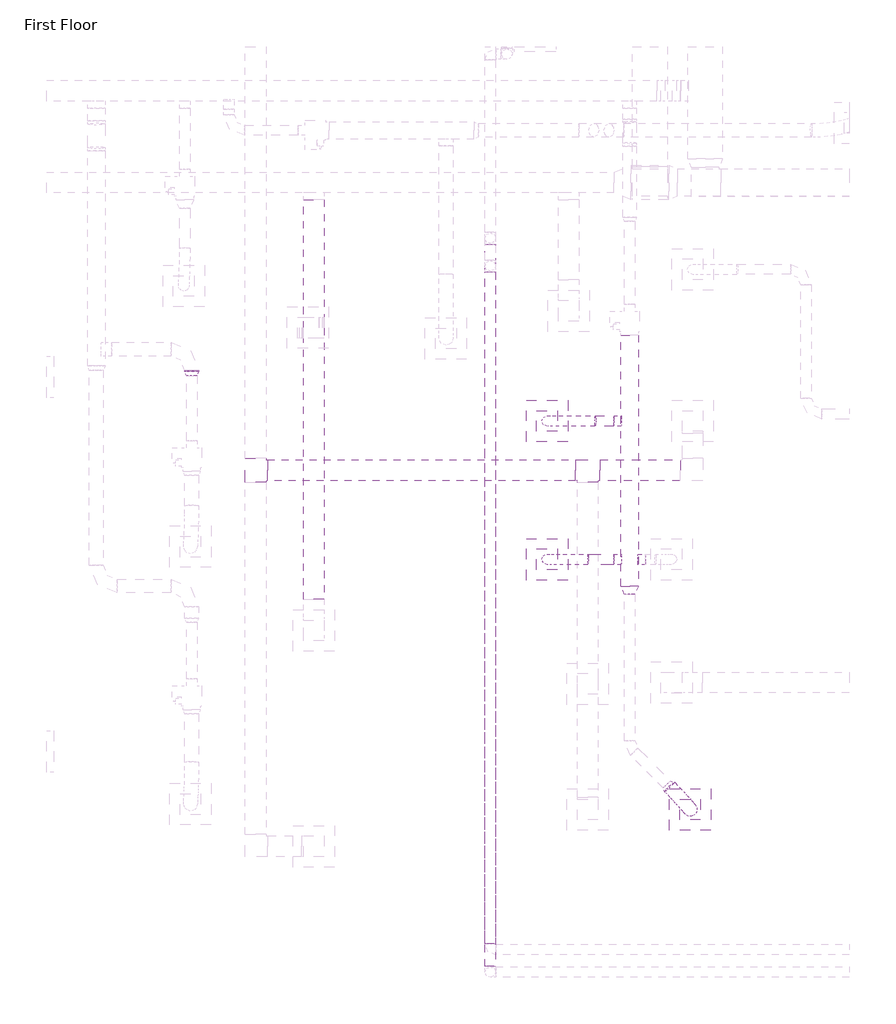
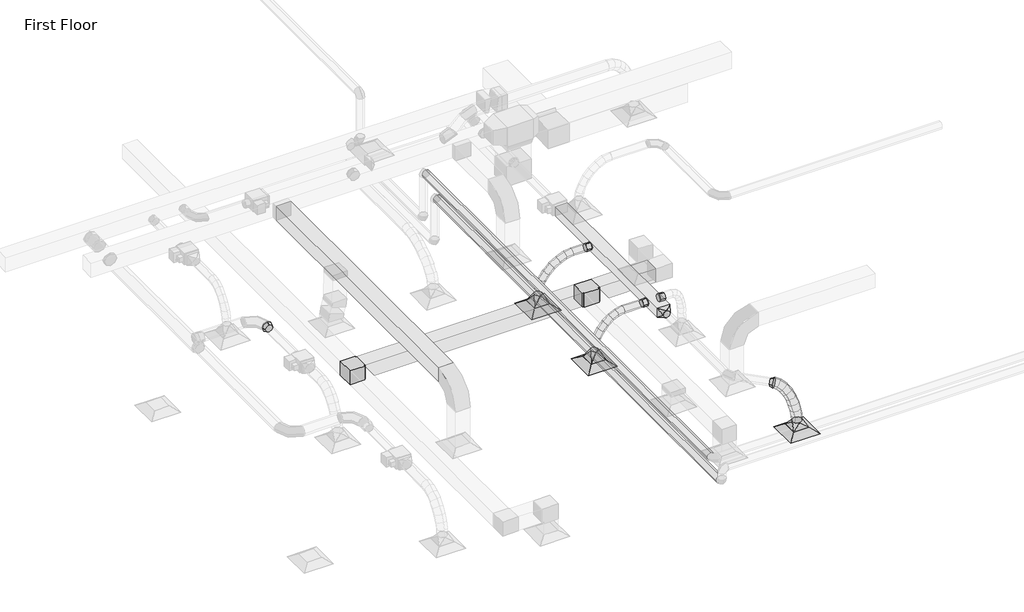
# One storey, part 3 of 61: 11 duct fittings, 10 duct segments, 3 air terminals, 2 pipe segments.
"""IFC4 building model written with IfcOpenShell, lengths in millimetres."""

from ifc_helpers import new_model, si_unit, point, frame, frame_2d, origin, place, context, project, spatial, polyline, circle_curve, ellipse_curve, trimmed, segment, composite_curve, outline, extrude, transform, mapped, element, save
from ifc_brep_helpers import plane_surface, cylinder_surface, advanced_brep
from components import m_exhaust_grill_er_600_x_600_face_300_x_300_connection_ff221211, m_rectangular_tee_standard_bf2a2b7f, m_rectangular_to_round_transition_angle_45_degree_8f201c83, m_rectangular_to_round_transition_angle_45_degree_c3b12eae, m_rectangular_to_round_transition_angle_45_degree_60daae35, m_round_takeoff_standard_d02f3bf7, m_round_takeoff_standard_2721f8a4, m_round_transition_angle_45_degree_3fc7b733

model = new_model("IFC4")

# Units and contexts
model_context = context("Model", 3, world=origin())
ifc_project = project(units=[si_unit("LENGTHUNIT", "METRE", prefix="MILLI")], contexts=[model_context])

# Site, building, storey
site = spatial("IfcSite", under=ifc_project)
building = spatial("IfcBuilding", under=site)
storey = spatial("IfcBuildingStorey", under=building, Name="First Floor", Elevation=0.0)

# Air terminals
placement = place(None, origin())
m_exhaust_grill_er_600_x_600_face_300_x_300_connection_shape = m_exhaust_grill_er_600_x_600_face_300_x_300_connection_ff221211(model_context)
element("IfcAirTerminal", 1, ObjectType="M_Supply Diffuser : SD-600 x 600 Face 300 x 300 Connection", at=placement, inside=storey, context=model_context, shape_type="MappedRepresentation", body=[
    mapped(m_exhaust_grill_er_600_x_600_face_300_x_300_connection_shape, transform((-41354.1385179, 7090.0613083, 2680.0), x_axis=(1.0, 0.0, 0.0), y_axis=(0.0, 1.0, 0.0), z_axis=(0.0, 0.0, 1.0))),
])
element("IfcAirTerminal", 2, ObjectType="M_Supply Diffuser : SD-600 x 600 Face 300 x 300 Connection", at=placement, inside=storey, context=model_context, shape_type="MappedRepresentation", body=[
    mapped(m_exhaust_grill_er_600_x_600_face_300_x_300_connection_shape, transform((-41354.1385179, 5090.8486203, 2680.0), x_axis=(1.0, 0.0, 0.0), y_axis=(0.0, 1.0, 0.0), z_axis=(0.0, 0.0, 1.0))),
])
element("IfcAirTerminal", 3, ObjectType="M_Supply Diffuser : SD-600 x 600 Face 300 x 300 Connection", at=placement, inside=storey, context=model_context, shape_type="MappedRepresentation", body=[
    mapped(m_exhaust_grill_er_600_x_600_face_300_x_300_connection_shape, transform((-39284.1874004, 1476.0224534, 2680.0), x_axis=(1.0, 0.0, 0.0), y_axis=(0.0, 1.0, 0.0), z_axis=(0.0, 0.0, 1.0))),
])

# Duct fittings
m_rectangular_tee_standard_shape = m_rectangular_tee_standard_bf2a2b7f(model_context)
element("IfcDuctFitting", 4, ObjectType="M_Rectangular Tee : Standard", at=placement, inside=storey, context=model_context, shape_type="MappedRepresentation", body=[
    mapped(m_rectangular_tee_standard_shape, transform((-40765.5775939, 6376.0224534, 3200.0), x_axis=(1.0, 0.0, 0.0), y_axis=(0.0, 1.0, 0.0), z_axis=(0.0, 0.0, 1.0))),
])
element("IfcDuctFitting", 5, ObjectType="M_Rectangular Tee : Standard", at=placement, inside=storey, context=model_context, shape_type="MappedRepresentation", body=[
    mapped(m_rectangular_tee_standard_shape, transform((-45565.5775939, 6376.0224534, 3200.0), x_axis=(0.0, 1.0, 0.0), y_axis=(-1.0, 0.0, 0.0), z_axis=(0.0, 0.0, 1.0))),
])
m_rectangular_to_round_transition_angle_45_degree_shape = m_rectangular_to_round_transition_angle_45_degree_8f201c83(model_context)
element("IfcDuctFitting", 6, ObjectType="M_Rectangular to Round Transition - Angle : 45 Degree", at=placement, inside=storey, context=model_context, shape_type="MappedRepresentation", body=[
    mapped(m_rectangular_to_round_transition_angle_45_degree_shape, transform((-41354.1385179, 7090.0613083, 2781.6), x_axis=(0.0, 0.0, 1.0), y_axis=(1.0, 0.0, 0.0), z_axis=(0.0, 1.0, 0.0))),
])
element("IfcDuctFitting", 7, ObjectType="M_Rectangular to Round Transition - Angle : 45 Degree", at=placement, inside=storey, context=model_context, shape_type="MappedRepresentation", body=[
    mapped(m_rectangular_to_round_transition_angle_45_degree_shape, transform((-41354.1385179, 5090.8486203, 2781.6), x_axis=(0.0, 0.0, 1.0), y_axis=(1.0, 0.0, 0.0), z_axis=(0.0, 1.0, 0.0))),
])
m_rectangular_to_round_transition_angle_45_degree_2_shape = m_rectangular_to_round_transition_angle_45_degree_c3b12eae(model_context)
element("IfcDuctFitting", 8, ObjectType="M_Rectangular to Round Transition - Angle : 45 Degree", at=placement, inside=storey, context=model_context, shape_type="MappedRepresentation", body=[
    mapped(m_rectangular_to_round_transition_angle_45_degree_2_shape, transform((-40159.2211613, 4704.8087341, 3619.0228744), x_axis=(0.0, -1.0, 0.0), y_axis=(1.0, 0.0, 0.0), z_axis=(0.0, 0.0, 1.0))),
])
m_rectangular_to_round_transition_angle_45_degree_3_shape = m_rectangular_to_round_transition_angle_45_degree_60daae35(model_context)
element("IfcDuctFitting", 9, ObjectType="M_Rectangular to Round Transition - Angle : 45 Degree", at=placement, inside=storey, context=model_context, shape_type="MappedRepresentation", body=[
    mapped(m_rectangular_to_round_transition_angle_45_degree_3_shape, transform((-39284.1874004, 1476.0224534, 2781.6), x_axis=(0.0, 0.0, 1.0), y_axis=(1.0, 0.0, 0.0), z_axis=(0.0, 1.0, 0.0))),
])
m_round_takeoff_standard_shape = m_round_takeoff_standard_d02f3bf7(model_context)
element("IfcDuctFitting", 10, ObjectType="M_Round Takeoff : Standard", at=placement, inside=storey, context=model_context, shape_type="MappedRepresentation", body=[
    mapped(m_round_takeoff_standard_shape, transform((-40284.2211613, 5090.8486203, 3619.1), x_axis=(-1.0, 0.0, 0.0), y_axis=(0.0, 1.0, 0.0), z_axis=(0.0, 0.0, -1.0))),
])
element("IfcDuctFitting", 11, ObjectType="M_Round Takeoff : Standard", at=placement, inside=storey, context=model_context, shape_type="MappedRepresentation", body=[
    mapped(m_round_takeoff_standard_shape, transform((-40284.2211613, 7090.0613083, 3619.1), x_axis=(-1.0, 0.0, 0.0), y_axis=(0.0, 1.0, 0.0), z_axis=(0.0, 0.0, -1.0))),
])
m_round_takeoff_standard_2_shape = m_round_takeoff_standard_2721f8a4(model_context)
element("IfcDuctFitting", 12, ObjectType="M_Round Takeoff : Standard", at=placement, inside=storey, context=model_context, shape_type="MappedRepresentation", body=[
    mapped(m_round_takeoff_standard_2_shape, transform((-40034.2211613, 5090.8486203, 3619.1), x_axis=(1.0, 0.0, 0.0), y_axis=(0.0, -1.0, 0.0), z_axis=(0.0, 0.0, -1.0))),
])
m_round_transition_angle_45_degree_shape = m_round_transition_angle_45_degree_3fc7b733(model_context)
element("IfcDuctFitting", 13, ObjectType="M_Round Transition - Angle : 45 Degree", at=placement, inside=storey, context=model_context, shape_type="MappedRepresentation", body=[
    mapped(m_round_transition_angle_45_degree_shape, transform((-46488.9134544, 7744.2820296, 3609.5), x_axis=(0.0, 0.9999999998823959, -1.533650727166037e-05), y_axis=(-1.0000000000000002, 0.0, 0.0), z_axis=(0.0, 1.533650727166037e-05, 0.9999999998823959))),
])
element("IfcDuctFitting", 14, ObjectType="M_Round Transition - Angle : 45 Degree", at=placement, inside=storey, context=model_context, shape_type="MappedRepresentation", body=[
    mapped(m_round_transition_angle_45_degree_shape, transform((-39621.8200076, 1839.8949538, 3619.1), x_axis=(0.7071067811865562, -0.7071067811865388, 0.0), y_axis=(0.7071067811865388, 0.7071067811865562, 0.0), z_axis=(0.0, 0.0, 1.0))),
])

# Duct segments
element("IfcDuctSegment", 15, ObjectType="Flex - Round", at=placement, inside=storey, context=model_context, shape_type="AdvancedBrep", body=[
    advanced_brep(
    [(-40659.2211613, 7015.0613083, 3619.1), (-40648.7151784, 7090.0613083, 3544.8394834), (-40659.2211613, 7165.0613083, 3619.1), (-40669.7271441, 7090.0613083, 3693.3605166), (-40798.0467145, 7015.0613083, 3599.4596992), (-40778.7190351, 7090.0613083, 3526.4472293), (-40798.0467145, 7165.0613083, 3599.4596992), (-40817.3743939, 7090.0613083, 3672.4721691), (-41354.1385179, 7015.0613083, 2962.6660172), (-41428.2049135, 7090.0613083, 2974.4630098), (-41354.1385179, 7165.0613083, 2962.6660172), (-41280.0721222, 7090.0613083, 2950.8690245), (-40936.3384627, 7015.0613083, 3544.701256), (-40901.9394345, 7090.0613083, 3477.6564857), (-40936.3384627, 7165.0613083, 3544.701256), (-40970.7374909, 7090.0613083, 3611.7460264), (-41066.5063599, 7015.0613083, 3461.0683595), (-41020.359549, 7090.0613083, 3401.5715415), (-41066.5063599, 7165.0613083, 3461.0683595), (-41112.6531708, 7090.0613083, 3520.5651774), (-41180.96036, 7015.0613083, 3354.8046984), (-41124.876813, 7090.0613083, 3304.5335428), (-41180.96036, 7165.0613083, 3354.8046984), (-41237.043907, 7090.0613083, 3405.075854), (-41272.110417, 7015.0613083, 3232.1539617), (-41207.1278619, 7090.0613083, 3193.8572352), (-41272.110417, 7165.0613083, 3232.1539617), (-41337.0929722, 7090.0613083, 3270.4506882), (-41332.366485, 7015.0613083, 3099.3598383), (-41259.8905574, 7090.0613083, 3077.5772302), (-41332.366485, 7165.0613083, 3099.3598383), (-41404.8424126, 7090.0613083, 3121.1424465)],
    [
        (0, 1, circle_curve(frame((-40659.2211613, 7090.0613083, 3619.1), z_axis=(0.9901402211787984, 0.0, 0.14007977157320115), x_axis=(0.0, -1.0, 0.0)), 75.0)),
        (1, 2, circle_curve(frame((-40659.2211613, 7090.0613083, 3619.1), z_axis=(0.9901402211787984, 0.0, 0.14007977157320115), x_axis=(0.0, -1.0, 0.0)), 75.0)),
        (2, 3, circle_curve(frame((-40659.2211613, 7090.0613083, 3619.1), z_axis=(0.9901402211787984, 0.0, 0.14007977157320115), x_axis=(0.0, -1.0, 0.0)), 75.0)),
        (3, 0, circle_curve(frame((-40659.2211613, 7090.0613083, 3619.1), z_axis=(0.9901402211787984, 0.0, 0.14007977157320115), x_axis=(0.0, -1.0, 0.0)), 75.0)),
        (0, 4),
        (4, 5, ellipse_curve(frame((-40798.0467145, 7090.0613083, 3599.4596992), z_axis=(0.9667024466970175, 0.0, 0.2559030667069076), x_axis=(0.2559030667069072, 0.0, -0.9667024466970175)), 75.5273457, 75.0)),
        (5, 1),
        (5, 6, ellipse_curve(frame((-40798.0467145, 7090.0613083, 3599.4596992), z_axis=(0.9667024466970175, 0.0, 0.2559030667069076), x_axis=(0.2559030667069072, 0.0, -0.9667024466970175)), 75.5273457, 75.0)),
        (6, 2),
        (6, 7, ellipse_curve(frame((-40798.0467145, 7090.0613083, 3599.4596992), z_axis=(0.9667024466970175, 0.0, 0.2559030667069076), x_axis=(0.2559030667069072, 0.0, -0.9667024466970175)), 75.5273457, 75.0)),
        (7, 3),
        (7, 4, ellipse_curve(frame((-40798.0467145, 7090.0613083, 3599.4596992), z_axis=(0.9667024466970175, 0.0, 0.2559030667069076), x_axis=(0.2559030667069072, 0.0, -0.9667024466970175)), 75.5273457, 75.0)),
        (8, 9, circle_curve(frame((-41354.1385179, 7090.0613083, 2962.6660172), z_axis=(-0.15729323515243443, 0.0, -0.987551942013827), x_axis=(0.0, -1.0, 0.0)), 75.0)),
        (9, 10, circle_curve(frame((-41354.1385179, 7090.0613083, 2962.6660172), z_axis=(-0.15729323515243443, 0.0, -0.987551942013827), x_axis=(0.0, -1.0, 0.0)), 75.0)),
        (10, 11, circle_curve(frame((-41354.1385179, 7090.0613083, 2962.6660172), z_axis=(-0.15729323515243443, 0.0, -0.987551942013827), x_axis=(0.0, -1.0, 0.0)), 75.0)),
        (11, 8, circle_curve(frame((-41354.1385179, 7090.0613083, 2962.6660172), z_axis=(-0.15729323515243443, 0.0, -0.987551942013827), x_axis=(0.0, -1.0, 0.0)), 75.0)),
        (4, 12),
        (12, 13, ellipse_curve(frame((-40936.3384627, 7090.0613083, 3544.701256), z_axis=(0.8897253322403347, 0.0, 0.4564962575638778), x_axis=(0.45649625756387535, 0.0, -0.8897253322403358)), 75.3544582, 75.0)),
        (13, 5),
        (13, 14, ellipse_curve(frame((-40936.3384627, 7090.0613083, 3544.701256), z_axis=(0.8897253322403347, 0.0, 0.4564962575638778), x_axis=(0.45649625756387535, 0.0, -0.8897253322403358)), 75.3544582, 75.0)),
        (14, 6),
        (14, 15, ellipse_curve(frame((-40936.3384627, 7090.0613083, 3544.701256), z_axis=(0.8897253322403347, 0.0, 0.4564962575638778), x_axis=(0.45649625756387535, 0.0, -0.8897253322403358)), 75.3544582, 75.0)),
        (15, 7),
        (15, 12, ellipse_curve(frame((-40936.3384627, 7090.0613083, 3544.701256), z_axis=(0.8897253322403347, 0.0, 0.4564962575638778), x_axis=(0.45649625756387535, 0.0, -0.8897253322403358)), 75.3544582, 75.0)),
        (12, 16),
        (16, 17, ellipse_curve(frame((-41066.5063599, 7090.0613083, 3461.0683595), z_axis=(0.7901784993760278, 0.0, 0.6128767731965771), x_axis=(0.6128767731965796, 0.0, -0.790178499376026)), 75.2954149, 75.0)),
        (17, 13),
        (17, 18, ellipse_curve(frame((-41066.5063599, 7090.0613083, 3461.0683595), z_axis=(0.7901784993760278, 0.0, 0.6128767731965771), x_axis=(0.6128767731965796, 0.0, -0.790178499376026)), 75.2954149, 75.0)),
        (18, 14),
        (18, 19, ellipse_curve(frame((-41066.5063599, 7090.0613083, 3461.0683595), z_axis=(0.7901784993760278, 0.0, 0.6128767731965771), x_axis=(0.6128767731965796, 0.0, -0.790178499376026)), 75.2954149, 75.0)),
        (19, 15),
        (19, 16, ellipse_curve(frame((-41066.5063599, 7090.0613083, 3461.0683595), z_axis=(0.7901784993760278, 0.0, 0.6128767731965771), x_axis=(0.6128767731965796, 0.0, -0.790178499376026)), 75.2954149, 75.0)),
        (16, 20),
        (20, 21, ellipse_curve(frame((-41180.96036, 7090.0613083, 3354.8046984), z_axis=(0.6674666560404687, 0.0, 0.7446396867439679), x_axis=(0.7446396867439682, 0.0, -0.6674666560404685)), 75.316355, 75.0)),
        (21, 17),
        (21, 22, ellipse_curve(frame((-41180.96036, 7090.0613083, 3354.8046984), z_axis=(0.6674666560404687, 0.0, 0.7446396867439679), x_axis=(0.7446396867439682, 0.0, -0.6674666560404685)), 75.316355, 75.0)),
        (22, 18),
        (22, 23, ellipse_curve(frame((-41180.96036, 7090.0613083, 3354.8046984), z_axis=(0.6674666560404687, 0.0, 0.7446396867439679), x_axis=(0.7446396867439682, 0.0, -0.6674666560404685)), 75.316355, 75.0)),
        (23, 19),
        (23, 20, ellipse_curve(frame((-41180.96036, 7090.0613083, 3354.8046984), z_axis=(0.6674666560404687, 0.0, 0.7446396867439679), x_axis=(0.7446396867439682, 0.0, -0.6674666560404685)), 75.316355, 75.0)),
        (20, 24),
        (24, 25, ellipse_curve(frame((-41272.110417, 7090.0613083, 3232.1539617), z_axis=(0.507726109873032, 0.0, 0.86151854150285), x_axis=(0.8615185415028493, 0.0, -0.5077261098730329)), 75.4279241, 75.0)),
        (25, 21),
        (25, 26, ellipse_curve(frame((-41272.110417, 7090.0613083, 3232.1539617), z_axis=(0.507726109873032, 0.0, 0.86151854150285), x_axis=(0.8615185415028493, 0.0, -0.5077261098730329)), 75.4279241, 75.0)),
        (26, 22),
        (26, 27, ellipse_curve(frame((-41272.110417, 7090.0613083, 3232.1539617), z_axis=(0.507726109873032, 0.0, 0.86151854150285), x_axis=(0.8615185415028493, 0.0, -0.5077261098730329)), 75.4279241, 75.0)),
        (27, 23),
        (27, 24, ellipse_curve(frame((-41272.110417, 7090.0613083, 3232.1539617), z_axis=(0.507726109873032, 0.0, 0.86151854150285), x_axis=(0.8615185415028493, 0.0, -0.5077261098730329)), 75.4279241, 75.0)),
        (24, 28),
        (28, 29, ellipse_curve(frame((-41332.366485, 7090.0613083, 3099.3598383), z_axis=(0.28783069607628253, 0.0, 0.9576813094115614), x_axis=(0.957681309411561, 0.0, -0.2878306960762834)), 75.6785446, 75.0)),
        (29, 25),
        (29, 30, ellipse_curve(frame((-41332.366485, 7090.0613083, 3099.3598383), z_axis=(0.28783069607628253, 0.0, 0.9576813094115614), x_axis=(0.957681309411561, 0.0, -0.2878306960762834)), 75.6785446, 75.0)),
        (30, 26),
        (30, 31, ellipse_curve(frame((-41332.366485, 7090.0613083, 3099.3598383), z_axis=(0.28783069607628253, 0.0, 0.9576813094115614), x_axis=(0.957681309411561, 0.0, -0.2878306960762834)), 75.6785446, 75.0)),
        (31, 27),
        (31, 28, ellipse_curve(frame((-41332.366485, 7090.0613083, 3099.3598383), z_axis=(0.28783069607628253, 0.0, 0.9576813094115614), x_axis=(0.957681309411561, 0.0, -0.2878306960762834)), 75.6785446, 75.0)),
        (28, 8),
        (11, 29),
        (10, 30),
        (9, 31),
    ],
    [
        plane_surface(frame((-40659.2211613, 7165.0613083, 3619.1), z_axis=(0.9901402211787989, 0.0, 0.14007977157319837), x_axis=(0.14007977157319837, 0.0, -0.9901402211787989))),
        cylinder_surface(frame((-40659.2211613, 7090.0613083, 3619.1), z_axis=(0.9901402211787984, 0.0, 0.14007977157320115), x_axis=(0.0, -1.0, 0.0)), 75.0),
        plane_surface(frame((-41354.1385179, 7165.0613083, 2962.6660172), z_axis=(-0.15729323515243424, 0.0, -0.987551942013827), x_axis=(0.987551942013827, 0.0, -0.15729323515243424))),
        cylinder_surface(frame((-40798.0467145, 7090.0613083, 3599.4596992), z_axis=(0.9297652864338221, 0.0, 0.36815283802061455), x_axis=(0.0, -1.0, 0.0)), 75.0),
        cylinder_surface(frame((-40936.3384627, 7090.0613083, 3544.701256), z_axis=(0.8413150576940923, 0.0, 0.5405450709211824), x_axis=(0.0, -1.0, 0.0)), 75.0),
        cylinder_surface(frame((-41066.5063599, 7090.0613083, 3461.0683595), z_axis=(0.732841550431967, 0.0, 0.6803993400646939), x_axis=(0.0, -1.0, 0.0)), 75.0),
        cylinder_surface(frame((-41180.96036, 7090.0613083, 3354.8046984), z_axis=(0.5964845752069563, 0.0, 0.8026245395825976), x_axis=(0.0, -1.0, 0.0)), 75.0),
        cylinder_surface(frame((-41272.110417, 7090.0613083, 3232.1539617), z_axis=(0.41320669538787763, 0.0, 0.9106372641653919), x_axis=(0.0, -1.0, 0.0)), 75.0),
        cylinder_surface(frame((-41332.366485, 7090.0613083, 3099.3598383), z_axis=(0.15729323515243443, 0.0, 0.987551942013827), x_axis=(0.0, -1.0, 0.0)), 75.0),
    ],
    [
        (0, [[1, 2, 3, 4]]),
        (1, [[-1, 5, 6, 7]]),
        (1, [[-2, -7, 8, 9]]),
        (1, [[-3, -9, 10, 11]]),
        (1, [[-4, -11, 12, -5]]),
        (2, [[13, 14, 15, 16]]),
        (3, [[-6, 17, 18, 19]]),
        (3, [[-8, -19, 20, 21]]),
        (3, [[-10, -21, 22, 23]]),
        (3, [[-12, -23, 24, -17]]),
        (4, [[-18, 25, 26, 27]]),
        (4, [[-20, -27, 28, 29]]),
        (4, [[-22, -29, 30, 31]]),
        (4, [[-24, -31, 32, -25]]),
        (5, [[-26, 33, 34, 35]]),
        (5, [[-28, -35, 36, 37]]),
        (5, [[-30, -37, 38, 39]]),
        (5, [[-32, -39, 40, -33]]),
        (6, [[-34, 41, 42, 43]]),
        (6, [[-36, -43, 44, 45]]),
        (6, [[-38, -45, 46, 47]]),
        (6, [[-40, -47, 48, -41]]),
        (7, [[-42, 49, 50, 51]]),
        (7, [[-44, -51, 52, 53]]),
        (7, [[-46, -53, 54, 55]]),
        (7, [[-48, -55, 56, -49]]),
        (8, [[-50, 57, -16, 58]]),
        (8, [[-52, -58, -15, 59]]),
        (8, [[-54, -59, -14, 60]]),
        (8, [[-56, -60, -13, -57]]),
    ],
),
])
element("IfcDuctSegment", 16, ObjectType="Flex - Round", at=placement, inside=storey, context=model_context, shape_type="AdvancedBrep", body=[
    advanced_brep(
    [(-40765.5775939, 5015.8486203, 3619.1), (-40753.1996313, 5090.8486203, 3545.1284782), (-40765.5775939, 5165.8486203, 3619.1), (-40777.9555564, 5090.8486203, 3693.0715218), (-40890.7149553, 5015.8486203, 3598.1602446), (-40867.8072708, 5090.8486203, 3525.950705), (-40890.7149553, 5165.8486203, 3598.1602446), (-40913.6226399, 5090.8486203, 3670.3697842), (-41354.1385179, 5015.8486203, 2962.6660172), (-41428.481083, 5090.8486203, 2972.5747511), (-41354.1385179, 5165.8486203, 2962.6660172), (-41279.7959527, 5090.8486203, 2952.7572833), (-41010.7808667, 5015.8486203, 3540.3697407), (-40970.7246141, 5090.8486203, 3476.414204), (-41010.7808667, 5165.8486203, 3540.3697407), (-41050.8371193, 5090.8486203, 3604.3252774), (-41120.6067522, 5015.8486203, 3453.2716319), (-41068.527541, 5090.8486203, 3398.8509781), (-41120.6067522, 5165.8486203, 3453.2716319), (-41172.6859634, 5090.8486203, 3507.6922857), (-41215.0240359, 5015.8486203, 3344.4090616), (-41154.0768503, 5090.8486203, 3300.2131299), (-41215.0240359, 5165.8486203, 3344.4090616), (-41275.9712215, 5090.8486203, 3388.6049934), (-41288.864142, 5015.8486203, 3221.3251734), (-41220.9624755, 5090.8486203, 3188.7216485), (-41288.864142, 5165.8486203, 3221.3251734), (-41356.7658084, 5090.8486203, 3253.9286983), (-41336.9584946, 5015.8486203, 3091.5631108), (-41263.7225176, 5090.8486203, 3073.3519439), (-41336.9584946, 5165.8486203, 3091.5631108), (-41410.1944716, 5090.8486203, 3109.7742776)],
    [
        (0, 1, circle_curve(frame((-40765.5775939, 5090.8486203, 3619.1), z_axis=(0.9862869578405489, 0.0, 0.16503950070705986), x_axis=(0.0, -1.0, 0.0)), 75.0)),
        (1, 2, circle_curve(frame((-40765.5775939, 5090.8486203, 3619.1), z_axis=(0.9862869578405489, 0.0, 0.16503950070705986), x_axis=(0.0, -1.0, 0.0)), 75.0)),
        (2, 3, circle_curve(frame((-40765.5775939, 5090.8486203, 3619.1), z_axis=(0.9862869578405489, 0.0, 0.16503950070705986), x_axis=(0.0, -1.0, 0.0)), 75.0)),
        (3, 0, circle_curve(frame((-40765.5775939, 5090.8486203, 3619.1), z_axis=(0.9862869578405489, 0.0, 0.16503950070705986), x_axis=(0.0, -1.0, 0.0)), 75.0)),
        (0, 4),
        (4, 5, ellipse_curve(frame((-40890.7149553, 5090.8486203, 3598.1602446), z_axis=(0.9531850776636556, 0.0, 0.3023875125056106), x_axis=(0.30238751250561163, 0.0, -0.9531850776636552)), 75.7560534, 75.0)),
        (5, 1),
        (5, 6, ellipse_curve(frame((-40890.7149553, 5090.8486203, 3598.1602446), z_axis=(0.9531850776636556, 0.0, 0.3023875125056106), x_axis=(0.30238751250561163, 0.0, -0.9531850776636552)), 75.7560534, 75.0)),
        (6, 2),
        (6, 7, ellipse_curve(frame((-40890.7149553, 5090.8486203, 3598.1602446), z_axis=(0.9531850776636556, 0.0, 0.3023875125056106), x_axis=(0.30238751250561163, 0.0, -0.9531850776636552)), 75.7560534, 75.0)),
        (7, 3),
        (7, 4, ellipse_curve(frame((-40890.7149553, 5090.8486203, 3598.1602446), z_axis=(0.9531850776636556, 0.0, 0.3023875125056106), x_axis=(0.30238751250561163, 0.0, -0.9531850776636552)), 75.7560534, 75.0)),
        (8, 9, circle_curve(frame((-41354.1385179, 5090.8486203, 2962.6660172), z_axis=(-0.13211645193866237, 0.0, -0.9912342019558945), x_axis=(0.0, -1.0, 0.0)), 75.0)),
        (9, 10, circle_curve(frame((-41354.1385179, 5090.8486203, 2962.6660172), z_axis=(-0.13211645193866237, 0.0, -0.9912342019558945), x_axis=(0.0, -1.0, 0.0)), 75.0)),
        (10, 11, circle_curve(frame((-41354.1385179, 5090.8486203, 2962.6660172), z_axis=(-0.13211645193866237, 0.0, -0.9912342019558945), x_axis=(0.0, -1.0, 0.0)), 75.0)),
        (11, 8, circle_curve(frame((-41354.1385179, 5090.8486203, 2962.6660172), z_axis=(-0.13211645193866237, 0.0, -0.9912342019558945), x_axis=(0.0, -1.0, 0.0)), 75.0)),
        (4, 12),
        (12, 13, ellipse_curve(frame((-41010.7808667, 5090.8486203, 3540.3697407), z_axis=(0.8474973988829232, 0.0, 0.5307995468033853), x_axis=(0.5307995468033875, 0.0, -0.8474973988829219)), 75.4639917, 75.0)),
        (13, 5),
        (13, 14, ellipse_curve(frame((-41010.7808667, 5090.8486203, 3540.3697407), z_axis=(0.8474973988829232, 0.0, 0.5307995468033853), x_axis=(0.5307995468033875, 0.0, -0.8474973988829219)), 75.4639917, 75.0)),
        (14, 6),
        (14, 15, ellipse_curve(frame((-41010.7808667, 5090.8486203, 3540.3697407), z_axis=(0.8474973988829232, 0.0, 0.5307995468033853), x_axis=(0.5307995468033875, 0.0, -0.8474973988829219)), 75.4639917, 75.0)),
        (15, 7),
        (15, 12, ellipse_curve(frame((-41010.7808667, 5090.8486203, 3540.3697407), z_axis=(0.8474973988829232, 0.0, 0.5307995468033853), x_axis=(0.5307995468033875, 0.0, -0.8474973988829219)), 75.4639917, 75.0)),
        (12, 16),
        (16, 17, ellipse_curve(frame((-41120.6067522, 5090.8486203, 3453.2716319), z_axis=(0.7224782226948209, 0.0, 0.6913936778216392), x_axis=(0.6913936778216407, 0.0, -0.7224782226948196)), 75.3249746, 75.0)),
        (17, 13),
        (17, 18, ellipse_curve(frame((-41120.6067522, 5090.8486203, 3453.2716319), z_axis=(0.7224782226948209, 0.0, 0.6913936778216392), x_axis=(0.6913936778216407, 0.0, -0.7224782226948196)), 75.3249746, 75.0)),
        (18, 14),
        (18, 19, ellipse_curve(frame((-41120.6067522, 5090.8486203, 3453.2716319), z_axis=(0.7224782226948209, 0.0, 0.6913936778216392), x_axis=(0.6913936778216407, 0.0, -0.7224782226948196)), 75.3249746, 75.0)),
        (19, 15),
        (19, 16, ellipse_curve(frame((-41120.6067522, 5090.8486203, 3453.2716319), z_axis=(0.7224782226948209, 0.0, 0.6913936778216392), x_axis=(0.6913936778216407, 0.0, -0.7224782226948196)), 75.3249746, 75.0)),
        (16, 20),
        (20, 21, ellipse_curve(frame((-41215.0240359, 5090.8486203, 3344.4090616), z_axis=(0.5870478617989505, 0.0, 0.8095522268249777), x_axis=(0.8095522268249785, 0.0, -0.5870478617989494)), 75.285057, 75.0)),
        (21, 17),
        (21, 22, ellipse_curve(frame((-41215.0240359, 5090.8486203, 3344.4090616), z_axis=(0.5870478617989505, 0.0, 0.8095522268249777), x_axis=(0.8095522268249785, 0.0, -0.5870478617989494)), 75.285057, 75.0)),
        (22, 18),
        (22, 23, ellipse_curve(frame((-41215.0240359, 5090.8486203, 3344.4090616), z_axis=(0.5870478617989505, 0.0, 0.8095522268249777), x_axis=(0.8095522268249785, 0.0, -0.5870478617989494)), 75.285057, 75.0)),
        (23, 19),
        (23, 20, ellipse_curve(frame((-41215.0240359, 5090.8486203, 3344.4090616), z_axis=(0.5870478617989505, 0.0, 0.8095522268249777), x_axis=(0.8095522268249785, 0.0, -0.5870478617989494)), 75.285057, 75.0)),
        (20, 24),
        (24, 25, ellipse_curve(frame((-41288.864142, 5090.8486203, 3221.3251734), z_axis=(0.43284678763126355, 0.0, 0.9014675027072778), x_axis=(0.9014675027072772, 0.0, -0.4328467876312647)), 75.3234767, 75.0)),
        (25, 21),
        (25, 26, ellipse_curve(frame((-41288.864142, 5090.8486203, 3221.3251734), z_axis=(0.43284678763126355, 0.0, 0.9014675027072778), x_axis=(0.9014675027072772, 0.0, -0.4328467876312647)), 75.3234767, 75.0)),
        (26, 22),
        (26, 27, ellipse_curve(frame((-41288.864142, 5090.8486203, 3221.3251734), z_axis=(0.43284678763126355, 0.0, 0.9014675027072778), x_axis=(0.9014675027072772, 0.0, -0.4328467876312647)), 75.3234767, 75.0)),
        (27, 23),
        (27, 24, ellipse_curve(frame((-41288.864142, 5090.8486203, 3221.3251734), z_axis=(0.43284678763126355, 0.0, 0.9014675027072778), x_axis=(0.9014675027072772, 0.0, -0.4328467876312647)), 75.3234767, 75.0)),
        (24, 28),
        (28, 29, ellipse_curve(frame((-41336.9584946, 5090.8486203, 3091.5631108), z_axis=(0.24131538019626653, 0.0, 0.9704467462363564), x_axis=(0.9704467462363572, 0.0, -0.24131538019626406)), 75.4662503, 75.0)),
        (29, 25),
        (29, 30, ellipse_curve(frame((-41336.9584946, 5090.8486203, 3091.5631108), z_axis=(0.24131538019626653, 0.0, 0.9704467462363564), x_axis=(0.9704467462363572, 0.0, -0.24131538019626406)), 75.4662503, 75.0)),
        (30, 26),
        (30, 31, ellipse_curve(frame((-41336.9584946, 5090.8486203, 3091.5631108), z_axis=(0.24131538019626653, 0.0, 0.9704467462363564), x_axis=(0.9704467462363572, 0.0, -0.24131538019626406)), 75.4662503, 75.0)),
        (31, 27),
        (31, 28, ellipse_curve(frame((-41336.9584946, 5090.8486203, 3091.5631108), z_axis=(0.24131538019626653, 0.0, 0.9704467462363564), x_axis=(0.9704467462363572, 0.0, -0.24131538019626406)), 75.4662503, 75.0)),
        (28, 8),
        (11, 29),
        (10, 30),
        (9, 31),
    ],
    [
        plane_surface(frame((-40765.5775939, 5165.8486203, 3619.1), z_axis=(0.9862869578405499, 0.0, 0.16503950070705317), x_axis=(0.16503950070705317, 0.0, -0.9862869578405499))),
        cylinder_surface(frame((-40765.5775939, 5090.8486203, 3619.1), z_axis=(0.9862869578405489, 0.0, 0.16503950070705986), x_axis=(0.0, -1.0, 0.0)), 75.0),
        plane_surface(frame((-41354.1385179, 5165.8486203, 2962.6660172), z_axis=(-0.13211645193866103, 0.0, -0.9912342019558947), x_axis=(0.9912342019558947, 0.0, -0.13211645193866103))),
        cylinder_surface(frame((-40890.7149553, 5090.8486203, 3598.1602446), z_axis=(0.9010574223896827, 0.0, 0.4336998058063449), x_axis=(0.0, -1.0, 0.0)), 75.0),
        cylinder_surface(frame((-41010.7808667, 5090.8486203, 3540.3697407), z_axis=(0.7835156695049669, 0.0, 0.6213720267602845), x_axis=(0.0, -1.0, 0.0)), 75.0),
        cylinder_surface(frame((-41120.6067522, 5090.8486203, 3453.2716319), z_axis=(0.6552067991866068, 0.0, 0.7554495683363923), x_axis=(0.0, -1.0, 0.0)), 75.0),
        cylinder_surface(frame((-41215.0240359, 5090.8486203, 3344.4090616), z_axis=(0.5144433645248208, 0.0, 0.8575243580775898), x_axis=(0.0, -1.0, 0.0)), 75.0),
        cylinder_surface(frame((-41288.864142, 5090.8486203, 3221.3251734), z_axis=(0.34753248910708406, 0.0, 0.9376679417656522), x_axis=(0.0, -1.0, 0.0)), 75.0),
        cylinder_surface(frame((-41336.9584946, 5090.8486203, 3091.5631108), z_axis=(0.13211645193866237, 0.0, 0.9912342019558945), x_axis=(0.0, -1.0, 0.0)), 75.0),
    ],
    [
        (0, [[1, 2, 3, 4]]),
        (1, [[-1, 5, 6, 7]]),
        (1, [[-2, -7, 8, 9]]),
        (1, [[-3, -9, 10, 11]]),
        (1, [[-4, -11, 12, -5]]),
        (2, [[13, 14, 15, 16]]),
        (3, [[-6, 17, 18, 19]]),
        (3, [[-8, -19, 20, 21]]),
        (3, [[-10, -21, 22, 23]]),
        (3, [[-12, -23, 24, -17]]),
        (4, [[-18, 25, 26, 27]]),
        (4, [[-20, -27, 28, 29]]),
        (4, [[-22, -29, 30, 31]]),
        (4, [[-24, -31, 32, -25]]),
        (5, [[-26, 33, 34, 35]]),
        (5, [[-28, -35, 36, 37]]),
        (5, [[-30, -37, 38, 39]]),
        (5, [[-32, -39, 40, -33]]),
        (6, [[-34, 41, 42, 43]]),
        (6, [[-36, -43, 44, 45]]),
        (6, [[-38, -45, 46, 47]]),
        (6, [[-40, -47, 48, -41]]),
        (7, [[-42, 49, 50, 51]]),
        (7, [[-44, -51, 52, 53]]),
        (7, [[-46, -53, 54, 55]]),
        (7, [[-48, -55, 56, -49]]),
        (8, [[-50, 57, -16, 58]]),
        (8, [[-52, -58, -15, 59]]),
        (8, [[-54, -59, -14, 60]]),
        (8, [[-56, -60, -13, -57]]),
    ],
),
])
element("IfcDuctSegment", 17, ObjectType="Flex - Round", at=placement, inside=storey, context=model_context, shape_type="AdvancedBrep", body=[
    advanced_brep(
    [(-39507.8646285, 1867.3563471, 3619.1), (-39592.5797092, 1810.8727995, 3520.9523359), (-39650.4200476, 1727.0782215, 3619.1), (-39565.7049669, 1783.5617691, 3717.2476641), (-39437.9248392, 1796.281146, 3599.6357018), (-39535.5445178, 1752.9116913, 3505.0793975), (-39581.4555221, 1656.9941169, 3599.9071185), (-39483.8358435, 1700.3635716, 3694.4634229), (-39211.3926277, 1544.5837299, 2901.7887293), (-39215.746722, 1403.4054385, 2908.8408141), (-39356.9821732, 1407.4611769, 2902.8326269), (-39352.6280789, 1548.6394683, 2895.7805422), (-39377.1732993, 1732.5230882, 3545.6842737), (-39494.144995, 1709.4633578, 3468.313854), (-39522.0792447, 1594.6793816, 3547.1770154), (-39405.107549, 1617.739112, 3624.547435), (-39326.1318378, 1677.2521, 3464.7815419), (-39454.2961957, 1666.3125065, 3405.1519338), (-39471.6905064, 1540.1152042, 3467.3088756), (-39343.5261484, 1551.0547977, 3526.9384837), (-39284.6094047, 1630.8986084, 3364.0357886), (-39418.9072877, 1626.8061643, 3319.2879336), (-39430.4014768, 1494.0222722, 3367.1294286), (-39296.1035939, 1498.1147164, 3411.8772836), (-39252.4619136, 1593.9318847, 3250.4222215), (-39390.2243747, 1593.8233938, 3217.9186525), (-39398.2773624, 1457.0824296, 3253.598478), (-39260.5149014, 1457.1909206, 3286.1020469), (-39229.5961743, 1566.8709234, 3130.9146477), (-39369.4077314, 1569.1874802, 3109.1206601), (-39375.3324733, 1429.9277966, 3133.6772281), (-39235.5209162, 1427.6112399, 3155.4712157), (-39215.9410481, 1550.2561275, 3012.5382709), (-39356.9569807, 1554.0381012, 3001.1850221), (-39361.5590677, 1413.169085, 3014.2754866), (-39220.5431352, 1409.3871113, 3025.6287355)],
    [
        (0, 1, circle_curve(frame((-39579.1423381, 1797.2172843, 3619.1), z_axis=(-0.6883985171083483, 0.6995740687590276, 0.19158184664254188), x_axis=(0.7127770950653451, 0.7013906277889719, 0.0)), 100.0)),
        (1, 2, circle_curve(frame((-39579.1423381, 1797.2172843, 3619.1), z_axis=(-0.6883985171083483, 0.6995740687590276, 0.19158184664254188), x_axis=(0.7127770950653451, 0.7013906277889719, 0.0)), 100.0)),
        (2, 3, circle_curve(frame((-39579.1423381, 1797.2172843, 3619.1), z_axis=(-0.6883985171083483, 0.6995740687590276, 0.19158184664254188), x_axis=(0.7127770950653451, 0.7013906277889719, 0.0)), 100.0)),
        (3, 0, circle_curve(frame((-39579.1423381, 1797.2172843, 3619.1), z_axis=(-0.6883985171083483, 0.6995740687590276, 0.19158184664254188), x_axis=(0.7127770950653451, 0.7013906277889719, 0.0)), 100.0)),
        (0, 4),
        (4, 5, ellipse_curve(frame((-39509.6901806, 1726.6376315, 3599.7714102), z_axis=(-0.6486287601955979, 0.6690973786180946, 0.36275257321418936), x_axis=(-0.2819489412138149, 0.23146830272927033, -0.9310892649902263)), 101.6161995, 100.0)),
        (5, 1),
        (5, 6, ellipse_curve(frame((-39509.6901806, 1726.6376315, 3599.7714102), z_axis=(-0.6486287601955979, 0.6690973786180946, 0.36275257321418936), x_axis=(-0.2819489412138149, 0.23146830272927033, -0.9310892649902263)), 101.6161995, 100.0)),
        (6, 2),
        (6, 7, ellipse_curve(frame((-39509.6901806, 1726.6376315, 3599.7714102), z_axis=(-0.6486287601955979, 0.6690973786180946, 0.36275257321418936), x_axis=(-0.2819489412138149, 0.23146830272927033, -0.9310892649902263)), 101.6161995, 100.0)),
        (7, 3),
        (7, 4, ellipse_curve(frame((-39509.6901806, 1726.6376315, 3599.7714102), z_axis=(-0.6486287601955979, 0.6690973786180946, 0.36275257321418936), x_axis=(-0.2819489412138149, 0.23146830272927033, -0.9310892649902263)), 101.6161995, 100.0)),
        (8, 9, circle_curve(frame((-39284.1874004, 1476.0224534, 2902.3106781), z_axis=(0.0409812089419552, -0.05110822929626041, -0.9978519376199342), x_axis=(0.7279477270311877, 0.6856127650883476, -0.005219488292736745)), 100.0)),
        (9, 10, circle_curve(frame((-39284.1874004, 1476.0224534, 2902.3106781), z_axis=(0.0409812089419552, -0.05110822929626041, -0.9978519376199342), x_axis=(0.7279477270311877, 0.6856127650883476, -0.005219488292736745)), 100.0)),
        (10, 11, circle_curve(frame((-39284.1874004, 1476.0224534, 2902.3106781), z_axis=(0.0409812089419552, -0.05110822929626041, -0.9978519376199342), x_axis=(0.7279477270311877, 0.6856127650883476, -0.005219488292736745)), 100.0)),
        (11, 8, circle_curve(frame((-39284.1874004, 1476.0224534, 2902.3106781), z_axis=(0.0409812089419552, -0.05110822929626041, -0.9978519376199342), x_axis=(0.7279477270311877, 0.6856127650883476, -0.005219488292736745)), 100.0)),
        (4, 12),
        (12, 13, ellipse_curve(frame((-39449.626272, 1663.6012349, 3546.4306445), z_axis=(-0.530021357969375, 0.5640333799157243, 0.6332011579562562), x_axis=(-0.46495272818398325, 0.4311612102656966, -0.7732522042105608)), 100.9341179, 100.0)),
        (13, 5),
        (13, 14, ellipse_curve(frame((-39449.626272, 1663.6012349, 3546.4306445), z_axis=(-0.530021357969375, 0.5640333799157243, 0.6332011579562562), x_axis=(-0.46495272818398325, 0.4311612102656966, -0.7732522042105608)), 100.9341179, 100.0)),
        (14, 6),
        (14, 15, ellipse_curve(frame((-39449.626272, 1663.6012349, 3546.4306445), z_axis=(-0.530021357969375, 0.5640333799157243, 0.6332011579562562), x_axis=(-0.46495272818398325, 0.4311612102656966, -0.7732522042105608)), 100.9341179, 100.0)),
        (15, 7),
        (15, 12, ellipse_curve(frame((-39449.626272, 1663.6012349, 3546.4306445), z_axis=(-0.530021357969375, 0.5640333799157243, 0.6332011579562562), x_axis=(-0.46495272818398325, 0.4311612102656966, -0.7732522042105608)), 100.9341179, 100.0)),
        (12, 16),
        (16, 17, ellipse_curve(frame((-39398.9111721, 1608.6836521, 3466.0452088), z_axis=(-0.4082853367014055, 0.4480164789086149, 0.7953516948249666), x_axis=(-0.5691291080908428, 0.556284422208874, -0.6055078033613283)), 100.4820235, 100.0)),
        (17, 13),
        (17, 18, ellipse_curve(frame((-39398.9111721, 1608.6836521, 3466.0452088), z_axis=(-0.4082853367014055, 0.4480164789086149, 0.7953516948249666), x_axis=(-0.5691291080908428, 0.556284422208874, -0.6055078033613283)), 100.4820235, 100.0)),
        (18, 14),
        (18, 19, ellipse_curve(frame((-39398.9111721, 1608.6836521, 3466.0452088), z_axis=(-0.4082853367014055, 0.4480164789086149, 0.7953516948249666), x_axis=(-0.5691291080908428, 0.556284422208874, -0.6055078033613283)), 100.4820235, 100.0)),
        (19, 15),
        (19, 16, ellipse_curve(frame((-39398.9111721, 1608.6836521, 3466.0452088), z_axis=(-0.4082853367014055, 0.4480164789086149, 0.7953516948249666), x_axis=(-0.5691291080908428, 0.556284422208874, -0.6055078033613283)), 100.4820235, 100.0)),
        (16, 20),
        (20, 21, ellipse_curve(frame((-39357.5054408, 1562.4604403, 3365.5826086), z_axis=(-0.30605751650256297, 0.34603862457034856, 0.8868968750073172), x_axis=(-0.6209625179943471, 0.6335858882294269, -0.4614915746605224)), 100.2684572, 100.0)),
        (21, 17),
        (21, 22, ellipse_curve(frame((-39357.5054408, 1562.4604403, 3365.5826086), z_axis=(-0.30605751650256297, 0.34603862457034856, 0.8868968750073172), x_axis=(-0.6209625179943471, 0.6335858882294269, -0.4614915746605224)), 100.2684572, 100.0)),
        (22, 18),
        (22, 23, ellipse_curve(frame((-39357.5054408, 1562.4604403, 3365.5826086), z_axis=(-0.30605751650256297, 0.34603862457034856, 0.8868968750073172), x_axis=(-0.6209625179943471, 0.6335858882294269, -0.4614915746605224)), 100.2684572, 100.0)),
        (23, 19),
        (23, 20, ellipse_curve(frame((-39357.5054408, 1562.4604403, 3365.5826086), z_axis=(-0.30605751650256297, 0.34603862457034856, 0.8868968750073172), x_axis=(-0.6209625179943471, 0.6335858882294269, -0.4614915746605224)), 100.2684572, 100.0)),
        (20, 24),
        (24, 25, ellipse_curve(frame((-39325.369638, 1525.5071572, 3252.0103497), z_axis=(-0.22202836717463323, 0.2583964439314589, 0.9401780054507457), x_axis=(-0.6422443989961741, 0.6867593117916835, -0.34041706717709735)), 100.177296, 100.0)),
        (25, 21),
        (25, 26, ellipse_curve(frame((-39325.369638, 1525.5071572, 3252.0103497), z_axis=(-0.22202836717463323, 0.2583964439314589, 0.9401780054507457), x_axis=(-0.6422443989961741, 0.6867593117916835, -0.34041706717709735)), 100.177296, 100.0)),
        (26, 22),
        (26, 27, ellipse_curve(frame((-39325.369638, 1525.5071572, 3252.0103497), z_axis=(-0.22202836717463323, 0.2583964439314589, 0.9401780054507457), x_axis=(-0.6422443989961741, 0.6867593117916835, -0.34041706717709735)), 100.177296, 100.0)),
        (27, 23),
        (27, 24, ellipse_curve(frame((-39325.369638, 1525.5071572, 3252.0103497), z_axis=(-0.22202836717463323, 0.2583964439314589, 0.9401780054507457), x_axis=(-0.6422443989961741, 0.6867593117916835, -0.34041706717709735)), 100.177296, 100.0)),
        (24, 28),
        (28, 29, ellipse_curve(frame((-39302.4643238, 1498.39936, 3132.2959379), z_axis=(-0.14868769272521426, 0.17785862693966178, 0.9727580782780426), x_axis=(-0.6448422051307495, 0.7283390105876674, -0.23173436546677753)), 100.1473986, 100.0)),
        (29, 25),
        (29, 30, ellipse_curve(frame((-39302.4643238, 1498.39936, 3132.2959379), z_axis=(-0.14868769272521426, 0.17785862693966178, 0.9727580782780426), x_axis=(-0.6448422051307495, 0.7283390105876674, -0.23173436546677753)), 100.1473986, 100.0)),
        (30, 26),
        (30, 31, ellipse_curve(frame((-39302.4643238, 1498.39936, 3132.2959379), z_axis=(-0.14868769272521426, 0.17785862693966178, 0.9727580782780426), x_axis=(-0.6448422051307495, 0.7283390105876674, -0.23173436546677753)), 100.1473986, 100.0)),
        (31, 27),
        (31, 28, ellipse_curve(frame((-39302.4643238, 1498.39936, 3132.2959379), z_axis=(-0.14868769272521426, 0.17785862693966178, 0.9727580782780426), x_axis=(-0.6448422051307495, 0.7283390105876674, -0.23173436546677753)), 100.1473986, 100.0)),
        (28, 32),
        (32, 33, ellipse_curve(frame((-39288.7500579, 1481.7126063, 3013.4068788), z_axis=(-0.0773644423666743, 0.09475604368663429, 0.99248981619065), x_axis=(-0.6355079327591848, 0.7623432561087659, -0.12232100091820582)), 100.1631469, 100.0)),
        (33, 29),
        (33, 34, ellipse_curve(frame((-39288.7500579, 1481.7126063, 3013.4068788), z_axis=(-0.0773644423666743, 0.09475604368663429, 0.99248981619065), x_axis=(-0.6355079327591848, 0.7623432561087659, -0.12232100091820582)), 100.1631469, 100.0)),
        (34, 30),
        (34, 35, ellipse_curve(frame((-39288.7500579, 1481.7126063, 3013.4068788), z_axis=(-0.0773644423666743, 0.09475604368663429, 0.99248981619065), x_axis=(-0.6355079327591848, 0.7623432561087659, -0.12232100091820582)), 100.1631469, 100.0)),
        (35, 31),
        (35, 32, ellipse_curve(frame((-39288.7500579, 1481.7126063, 3013.4068788), z_axis=(-0.0773644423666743, 0.09475604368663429, 0.99248981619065), x_axis=(-0.6355079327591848, 0.7623432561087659, -0.12232100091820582)), 100.1631469, 100.0)),
        (32, 8),
        (11, 33),
        (10, 34),
        (9, 35),
    ],
    [
        plane_surface(frame((-39579.1423381, 1823.6302469, 3522.6512809), z_axis=(-0.6883985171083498, 0.6995740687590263, 0.19158184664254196), x_axis=(0.7253326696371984, 0.6639515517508, 0.18182644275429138))),
        cylinder_surface(frame((-39579.1423381, 1797.2172843, 3619.1), z_axis=(-0.6883985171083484, 0.6995740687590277, 0.19158184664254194), x_axis=(0.7127770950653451, 0.7013906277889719, 0.0)), 100.0),
        plane_surface(frame((-39284.1874004, 1575.8915454, 2897.1955581), z_axis=(0.04098120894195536, -0.05110822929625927, -0.9978519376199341), x_axis=(0.9991599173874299, 0.002096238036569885, 0.040927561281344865))),
        cylinder_surface(frame((-39509.6901806, 1726.6376315, 3599.7714102), z_axis=(-0.5882262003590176, 0.6173367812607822, 0.5223841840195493), x_axis=(0.7218201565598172, 0.692062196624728, -0.005057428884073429)), 100.0),
        cylinder_surface(frame((-39449.626272, 1663.6012349, 3546.4306445), z_axis=(-0.46200610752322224, 0.5002900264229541, 0.7322979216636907), x_axis=(0.7266578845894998, 0.686914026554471, -0.010836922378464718)), 100.0),
        cylinder_surface(frame((-39398.9111721, 1608.6836521, 3466.0452088), z_axis=(-0.35064738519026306, 0.39144456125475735, 0.8507746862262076), x_axis=(0.7286551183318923, 0.6847224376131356, -0.01472759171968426)), 100.0),
        cylinder_surface(frame((-39357.5054408, 1562.4604403, 3365.5826086), z_axis=(-0.25982878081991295, 0.2987797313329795, 0.9182699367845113), x_axis=(0.7291865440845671, 0.6841215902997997, -0.01626756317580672)), 100.0),
        cylinder_surface(frame((-39325.369638, 1525.5071572, 3252.0103497), z_axis=(-0.18344205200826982, 0.21709852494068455, 0.958758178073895), x_axis=(0.7290000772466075, 0.6843386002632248, -0.015477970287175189)), 100.0),
        cylinder_surface(frame((-39302.4643238, 1498.39936, 3132.2959379), z_axis=(-0.11349565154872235, 0.13809517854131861, 0.9838945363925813), x_axis=(0.728484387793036, 0.6849554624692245, -0.012104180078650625)), 100.0),
        cylinder_surface(frame((-39288.7500579, 1481.7126063, 3013.4068788), z_axis=(-0.040981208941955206, 0.051108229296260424, 0.9978519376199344), x_axis=(0.7279477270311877, 0.6856127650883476, -0.005219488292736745)), 100.0),
    ],
    [
        (0, [[1, 2, 3, 4]]),
        (1, [[-1, 5, 6, 7]]),
        (1, [[-2, -7, 8, 9]]),
        (1, [[-3, -9, 10, 11]]),
        (1, [[-4, -11, 12, -5]]),
        (2, [[13, 14, 15, 16]]),
        (3, [[-6, 17, 18, 19]]),
        (3, [[-8, -19, 20, 21]]),
        (3, [[-10, -21, 22, 23]]),
        (3, [[-12, -23, 24, -17]]),
        (4, [[-18, 25, 26, 27]]),
        (4, [[-20, -27, 28, 29]]),
        (4, [[-22, -29, 30, 31]]),
        (4, [[-24, -31, 32, -25]]),
        (5, [[-26, 33, 34, 35]]),
        (5, [[-28, -35, 36, 37]]),
        (5, [[-30, -37, 38, 39]]),
        (5, [[-32, -39, 40, -33]]),
        (6, [[-34, 41, 42, 43]]),
        (6, [[-36, -43, 44, 45]]),
        (6, [[-38, -45, 46, 47]]),
        (6, [[-40, -47, 48, -41]]),
        (7, [[-42, 49, 50, 51]]),
        (7, [[-44, -51, 52, 53]]),
        (7, [[-46, -53, 54, 55]]),
        (7, [[-48, -55, 56, -49]]),
        (8, [[-50, 57, 58, 59]]),
        (8, [[-52, -59, 60, 61]]),
        (8, [[-54, -61, 62, 63]]),
        (8, [[-56, -63, 64, -57]]),
        (9, [[-58, 65, -16, 66]]),
        (9, [[-60, -66, -15, 67]]),
        (9, [[-62, -67, -14, 68]]),
        (9, [[-64, -68, -13, -65]]),
    ],
),
])
element("IfcDuctSegment", 18, ObjectType="Mitered Elbows / Taps", at=placement, inside=storey, context=model_context, shape_type="SweptSolid", body=[
    extrude(outline(polyline([(-40590.5775939, 6226.0224534), (-40590.5775939, 6526.0224534), (-39423.7372444, 6526.0224534), (-39423.7372444, 6226.0224534), (-40590.5775939, 6226.0224534)])), frame((0.0, 0.0, 3050.0), z_axis=(0.0, 0.0, 1.0), x_axis=(1.0, 0.0, 0.0)), (0.0, 0.0, 1.0), 300.0),
])
element("IfcDuctSegment", 19, ObjectType="Mitered Elbows / Taps", at=placement, inside=storey, context=model_context, shape_type="SweptSolid", body=[
    extrude(outline(polyline([(-40940.5775939, 6526.0224534), (-40940.5775939, 6226.0224534), (-45390.5775939, 6226.0224534), (-45390.5775939, 6526.0224534), (-40940.5775939, 6526.0224534)])), frame((0.0, 0.0, 3050.0), z_axis=(0.0, 0.0, 1.0), x_axis=(1.0, 0.0, 0.0)), (0.0, 0.0, 1.0), 300.0),
])
element("IfcDuctSegment", 20, ObjectType="Radius Elbows / Taps", at=placement, inside=storey, context=model_context, shape_type="SweptSolid", body=[
    extrude(outline(polyline([(-40284.2211613, 8331.1604859), (-40034.2211613, 8331.1604859), (-40034.2211613, 4704.8087341), (-40284.2211613, 4704.8087341), (-40284.2211613, 8331.1604859)])), frame((0.0, 0.0, 3519.0228744), z_axis=(0.0, 0.0, 1.0), x_axis=(1.0, 0.0, 0.0)), (0.0, 0.0, 1.0), 200.0),
])
element("IfcDuctSegment", 21, ObjectType="Radius Elbows / Taps", at=placement, inside=storey, context=model_context, shape_type="SweptSolid", body=[
    extrude(outline(polyline([(-44575.0192115, 4511.4140624), (-44875.0192115, 4511.4140624), (-44875.0192115, 10284.5124787), (-44575.0192115, 10284.5124787), (-44575.0192115, 4511.4140624)])), frame((0.0, 0.0, 3850.0), z_axis=(0.0, 0.0, 1.0), x_axis=(1.0, 0.0, 0.0)), (0.0, 0.0, 1.0), 300.0),
])
element("IfcDuctSegment", 22, ObjectType="Taps", at=placement, inside=storey, context=model_context, shape_type="SweptSolid", body=[
    extrude(outline(composite_curve([segment(trimmed(circle_curve(frame_2d((3609.4990744, -46488.9134544)), 100.0), [point((3609.4990744, -46388.9134544))], [point((3709.4990744, -46488.9134544))], False, "CARTESIAN"), True, "CONTINUOUS"), segment(trimmed(circle_curve(frame_2d((3609.4990744, -46488.9134544)), 100.0), [point((3709.4990744, -46488.9134544))], [point((3609.4990744, -46588.9134544))], False, "CARTESIAN"), True, "CONTINUOUS"), segment(trimmed(circle_curve(frame_2d((3609.4990744, -46488.9134544)), 100.0), [point((3609.4990744, -46588.9134544))], [point((3509.4990744, -46488.9134544))], False, "CARTESIAN"), True, "CONTINUOUS"), segment(trimmed(circle_curve(frame_2d((3609.4990744, -46488.9134544)), 100.0), [point((3509.4990744, -46488.9134544))], [point((3609.4990744, -46388.9134544))], False, "CARTESIAN"), True, "CONTINUOUS")], self_intersect=False)), frame((0.0, 7804.6373686, 0.0), z_axis=(0.0, 1.0, 0.0), x_axis=(0.0, 0.0, 1.0)), (0.0, 0.0, 1.0), 19.6446609),
])
element("IfcDuctSegment", 23, ObjectType="Taps", at=placement, inside=storey, context=model_context, shape_type="SweptSolid", body=[
    extrude(outline(composite_curve([segment(trimmed(circle_curve(frame_2d((5090.8486203, 3619.1)), 75.0), [point((5165.8486203, 3619.1))], [point((5090.8486203, 3544.1))], False, "CARTESIAN"), True, "CONTINUOUS"), segment(trimmed(circle_curve(frame_2d((5090.8486203, 3619.1)), 75.0), [point((5090.8486203, 3544.1))], [point((5015.8486203, 3619.1))], False, "CARTESIAN"), True, "CONTINUOUS"), segment(trimmed(circle_curve(frame_2d((5090.8486203, 3619.1)), 75.0), [point((5015.8486203, 3619.1))], [point((5090.8486203, 3694.1))], False, "CARTESIAN"), True, "CONTINUOUS"), segment(trimmed(circle_curve(frame_2d((5090.8486203, 3619.1)), 75.0), [point((5090.8486203, 3694.1))], [point((5165.8486203, 3619.1))], False, "CARTESIAN"), True, "CONTINUOUS")], self_intersect=False)), frame((-40765.5775939, 0.0, 0.0), z_axis=(1.0, 0.0, 0.0), x_axis=(0.0, 1.0, 0.0)), (0.0, 0.0, 1.0), 381.3564326),
])
element("IfcDuctSegment", 24, ObjectType="Taps", at=placement, inside=storey, context=model_context, shape_type="SweptSolid", body=[
    extrude(outline(composite_curve([segment(trimmed(circle_curve(frame_2d((7090.0613083, 3619.1)), 75.0), [point((7165.0613083, 3619.1))], [point((7090.0613083, 3544.1))], False, "CARTESIAN"), True, "CONTINUOUS"), segment(trimmed(circle_curve(frame_2d((7090.0613083, 3619.1)), 75.0), [point((7090.0613083, 3544.1))], [point((7015.0613083, 3619.1))], False, "CARTESIAN"), True, "CONTINUOUS"), segment(trimmed(circle_curve(frame_2d((7090.0613083, 3619.1)), 75.0), [point((7015.0613083, 3619.1))], [point((7090.0613083, 3694.1))], False, "CARTESIAN"), True, "CONTINUOUS"), segment(trimmed(circle_curve(frame_2d((7090.0613083, 3619.1)), 75.0), [point((7090.0613083, 3694.1))], [point((7165.0613083, 3619.1))], False, "CARTESIAN"), True, "CONTINUOUS")], self_intersect=False)), frame((-40659.2211613, 0.0, 0.0), z_axis=(1.0, 0.0, 0.0), x_axis=(0.0, 1.0, 0.0)), (0.0, 0.0, 1.0), 275.0),
])

# Pipe segments
element("IfcPipeSegment", 25, ObjectType="Standard", at=placement, inside=storey, context=model_context, shape_type="SweptSolid", body=[
    extrude(outline(composite_curve([segment(trimmed(circle_curve(frame_2d((4000.0, -42173.6892157)), 76.2), [point((4000.0, -42249.8892157))], [point((3923.8, -42173.6892157))], False, "CARTESIAN"), True, "CONTINUOUS"), segment(trimmed(circle_curve(frame_2d((4000.0, -42173.6892157)), 76.2), [point((3923.8, -42173.6892157))], [point((4000.0, -42097.4892157))], False, "CARTESIAN"), True, "CONTINUOUS"), segment(trimmed(circle_curve(frame_2d((4000.0, -42173.6892157)), 76.2), [point((4000.0, -42097.4892157))], [point((4076.2, -42173.6892157))], False, "CARTESIAN"), True, "CONTINUOUS"), segment(trimmed(circle_curve(frame_2d((4000.0, -42173.6892157)), 76.2), [point((4076.2, -42173.6892157))], [point((4000.0, -42249.8892157))], False, "CARTESIAN"), True, "CONTINUOUS")], self_intersect=False)), frame((0.0, -788.3364044, 0.0), z_axis=(0.0, 1.0, 0.0), x_axis=(0.0, 0.0, 1.0)), (0.0, 0.0, 1.0), 10034.5351349),
])
element("IfcPipeSegment", 26, ObjectType="Standard", at=placement, inside=storey, context=model_context, shape_type="SweptSolid", body=[
    extrude(outline(composite_curve([segment(trimmed(circle_curve(frame_2d((4300.0, -42173.6892157)), 76.2), [point((4300.0, -42097.4892157))], [point((4376.2, -42173.6892157))], False, "CARTESIAN"), True, "CONTINUOUS"), segment(trimmed(circle_curve(frame_2d((4300.0, -42173.6892157)), 76.2), [point((4376.2, -42173.6892157))], [point((4300.0, -42249.8892157))], False, "CARTESIAN"), True, "CONTINUOUS"), segment(trimmed(circle_curve(frame_2d((4300.0, -42173.6892157)), 76.2), [point((4300.0, -42249.8892157))], [point((4223.8, -42173.6892157))], False, "CARTESIAN"), True, "CONTINUOUS"), segment(trimmed(circle_curve(frame_2d((4300.0, -42173.6892157)), 76.2), [point((4223.8, -42173.6892157))], [point((4300.0, -42097.4892157))], False, "CARTESIAN"), True, "CONTINUOUS")], self_intersect=False)), frame((0.0, -465.5262695, 0.0), z_axis=(0.0, 1.0, 0.0), x_axis=(0.0, 0.0, 1.0)), (0.0, 0.0, 1.0), 10111.725),
])

save(model, "model.ifc")
